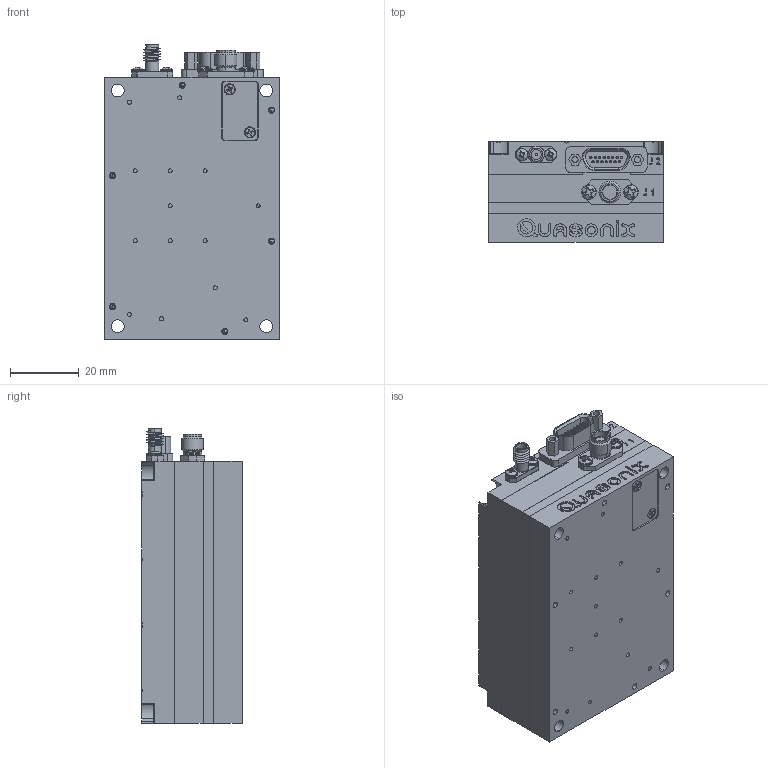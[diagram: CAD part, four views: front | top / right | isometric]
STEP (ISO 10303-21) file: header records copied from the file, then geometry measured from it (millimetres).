
FILE_DESCRIPTION (( 'STEP AP203' ), '1' );
FILE_NAME ('07AA_10-22-13.STEP', '2013-10-22T18:44:08', ( 'Quasonix' ), ( '' ), 'SwSTEP 2.0', 'SolidWorks 2012', '' );
FILE_SCHEMA (( 'CONFIG_CONTROL_DESIGN' ));
Length unit declared in the file: inch
Products named in the file (1): 07AA_10-22-13
Bounding box: 50.8 x 29.23 x 85.72 mm (x, y, z)
Surface area: 21325.7 mm2 (no closed solid volume)
Topology: 0 solids, 45 shells, 930 faces, 3006 edges, 2095 vertices
Faces by surface type: plane 466, cylinder 228, cone 133, bspline 72, torus 20, sphere 11
Entity records: 35318 total; most frequent: CARTESIAN_POINT 9278, DIRECTION 5291, ORIENTED_EDGE 5166, EDGE_CURVE 2986, VERTEX_POINT 2095, AXIS2_PLACEMENT_3D 1919, LINE 1453, VECTOR 1453
